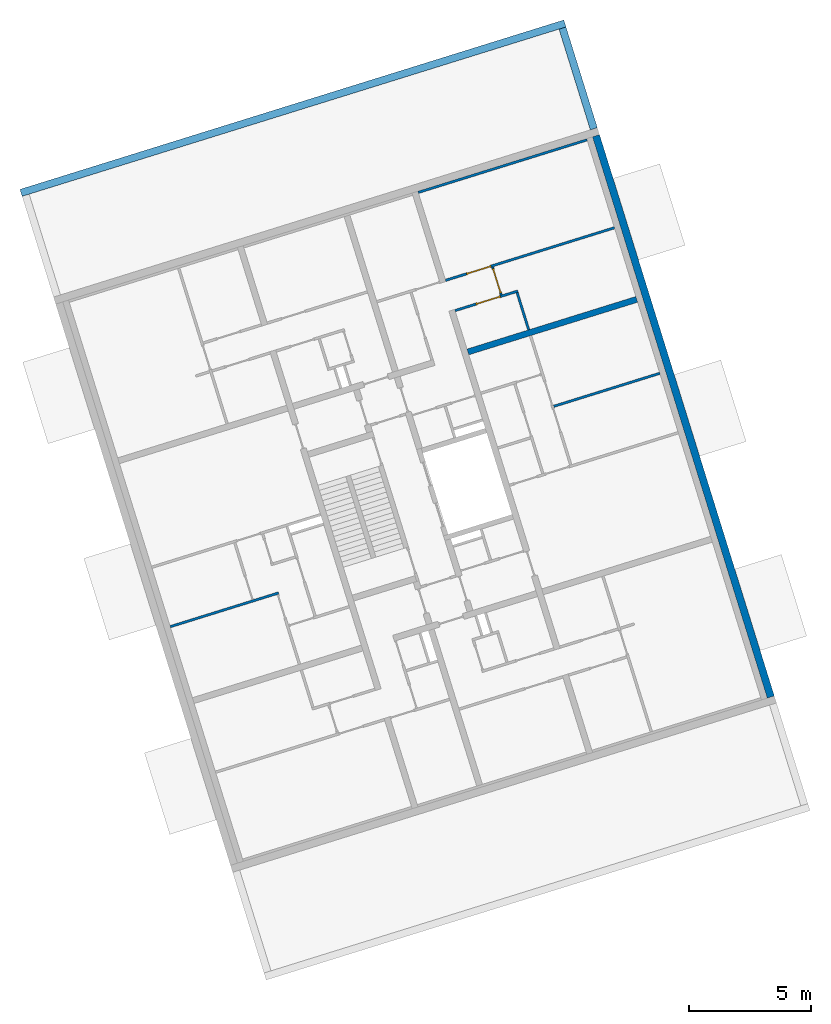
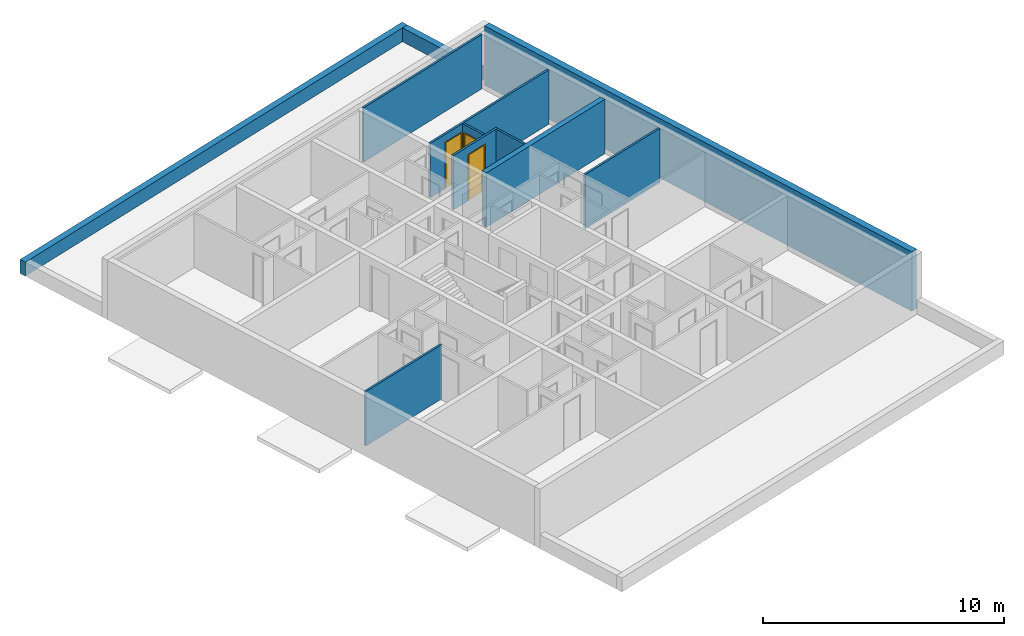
# One storey, part 7 of 9: 11 walls, 3 doors, 7 openings.
"""IFC4 building model written with IfcOpenShell, lengths in metres."""

from ifc_helpers import new_model, entity, si_unit, converted_unit, direction, frame, origin, place, context, subcontext, project, spatial, indexed_curve, outline, extrude, polygons, source, transform, mapped, material, constituent, constituent_set, type_object, type_shapes, element, fill, save


model = new_model("IFC4")

# Units and contexts
model_context = context("Model", 3, precision=1e-05, world=origin(), true_north=direction((6.12323399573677e-17, 1.0)))
body_context = subcontext(model_context, "Body", "Model", "MODEL_VIEW")
ifc_project = project(units=[si_unit("LENGTHUNIT", "METRE"), si_unit("AREAUNIT", "SQUARE_METRE"), converted_unit("PLANEANGLEUNIT", "DEGREE", entity("IfcPlaneAngleMeasure", 0.0174532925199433), si_unit("PLANEANGLEUNIT", "RADIAN"), dimensions=[0, 0, 0, 0, 0, 0, 0]), si_unit("VOLUMEUNIT", "CUBIC_METRE")], contexts=[model_context])

# Site, building, storey
site_placement = place(None, frame((13.1347999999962, 11.9886000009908, 0.0), z_axis=(0.0, 0.0, 1.0), x_axis=(0.954770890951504, 0.297342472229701, 0.0)))
site = spatial("IfcSite", under=ifc_project, at=site_placement, Name="Schiehaven", CompositionType="ELEMENT")
building_placement = place(site_placement, origin())
building = spatial("IfcBuilding", under=site, at=building_placement, Name="VORM huis", CompositionType="ELEMENT")
storey_placement = place(building_placement, frame((0.0, 0.0, 6.9)))
storey = spatial("IfcBuildingStorey", under=building, at=storey_placement, Name="02 tweede verdieping", CompositionType="ELEMENT", Elevation=6.9)

# Walls
ifc_material_1 = material(Name="ntb_ntb_ntb", Category="Miscellaneous")
wall_type_1 = type_object("IfcWallType", Name="Basic Wall:21_WA_gevel_binnenspouwwand 100mm_gen", PredefinedType="STANDARD")
wall_1_placement = place(storey_placement, frame((79.8750000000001, 29.0499999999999, 0.0), z_axis=(0.0, 0.0, 1.0), x_axis=(-1.0, 0.0, 0.0)))
element("IfcWall", 1, at=wall_1_placement, inside=storey, type_object=wall_type_1, material=ifc_material_1, Name="Binnenspouwblad", ObjectType="Wand", PredefinedType="NOTDEFINED", context=body_context, shape_type="SweptSolid", body=[
    extrude(outline(indexed_curve([(7.24999999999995, 0.0499999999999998), (-1.70916305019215e-17, 0.0500000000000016), (1.70916305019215e-17, -0.0500000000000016), (7.24999999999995, -0.0500000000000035), (7.24999999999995, 0.0499999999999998)], self_intersect=False)), origin(), (0.0, 0.0, 1.0), 2.75),
])
wall_type_2 = type_object("IfcWallType", Name="Basic Wall: 300mm_gen", PredefinedType="STANDARD")
wall_2_placement = place(storey_placement, frame((80.275, 5.0, 0.0), z_axis=(0.0, 0.0, 1.0), x_axis=(0.0, 1.0, 0.0)))
element("IfcWall", 2, at=wall_2_placement, inside=storey, type_object=wall_type_2, material=ifc_material_1, Name="Gevelwand", ObjectType="Wand", PredefinedType="NOTDEFINED", context=body_context, shape_type="SweptSolid", body=[
    extrude(outline(indexed_curve([(24.1, 0.150000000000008), (-3.80640300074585e-16, 0.150000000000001), (-7.02226829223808e-16, -0.150000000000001), (24.1, -0.149999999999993), (24.1, 0.150000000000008)], self_intersect=False)), origin(), (0.0, 0.0, 1.0), 3.0),
])
wall_3_placement = place(storey_placement, frame((57.0750000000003, 33.8750000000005, 0.0)))
element("IfcWall", 3, at=wall_3_placement, inside=storey, type_object=wall_type_2, material=ifc_material_1, Name="Gevelwand", ObjectType="Wand", PredefinedType="NOTDEFINED", context=body_context, shape_type="SweptSolid", body=[
    extrude(outline(indexed_curve([(23.3500000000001, 0.149999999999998), (2.10047350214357e-15, 0.150000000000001), (-2.10047350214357e-15, -0.150000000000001), (23.3500000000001, -0.150000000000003), (23.3500000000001, 0.149999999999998)], self_intersect=False)), origin(), (0.0, 0.0, 1.0), 0.700000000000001),
])
wall_4_placement = place(storey_placement, frame((80.2750000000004, 33.7250000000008, 0.0), z_axis=(0.0, 0.0, 1.0), x_axis=(0.0, -1.0, 0.0)))
element("IfcWall", 4, at=wall_4_placement, inside=storey, type_object=wall_type_2, material=ifc_material_1, Name="Gevelwand", ObjectType="Wand", PredefinedType="NOTDEFINED", context=body_context, shape_type="SweptSolid", body=[
    extrude(outline(indexed_curve([(4.32500000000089, 0.150000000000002), (-6.50257500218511e-16, 0.150000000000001), (6.50257500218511e-16, -0.150000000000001), (4.32500000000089, -0.149999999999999), (4.32500000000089, 0.150000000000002)], self_intersect=False)), origin(), (0.0, 0.0, 1.0), 0.700000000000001),
])
wall_type_3 = type_object("IfcWallType", Name="Basic Wall:22_WA_afbouw_binnenwand 250mm_gen", PredefinedType="STANDARD")
wall_5_placement = place(storey_placement, frame((72.6250000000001, 22.1999999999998, 0.0)))
element("IfcWall", 5, at=wall_5_placement, inside=storey, type_object=wall_type_3, material=ifc_material_1, Name="Binnenwand", ObjectType="Wand", PredefinedType="NOTDEFINED", context=body_context, shape_type="SweptSolid", body=[
    extrude(outline(indexed_curve([(7.24999999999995, 0.125000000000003), (4.81048401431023e-17, 0.125000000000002), (-4.81048401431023e-17, -0.125000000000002), (7.24999999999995, -0.125), (7.24999999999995, 0.125000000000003)], self_intersect=False)), origin(), (0.0, 0.0, 1.0), 2.75),
])

# Wall, openings
wall_type_4 = type_object("IfcWallType", Name="Basic Wall:22_WA_afbouw_binnenwand 100mm_gen", PredefinedType="STANDARD")
wall_6_placement = place(storey_placement, frame((62.275, 15.0749999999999, 0.0), z_axis=(0.0, 0.0, 1.0), x_axis=(-1.0, 0.0, 0.0)))
wall_6 = element("IfcWall", 6, at=wall_6_placement, inside=storey, type_object=wall_type_4, material=ifc_material_1, Name="Binnenwand", ObjectType="Wand", PredefinedType="NOTDEFINED", context=body_context, shape_type="Tessellation", body=[
    polygons([(-2.25176779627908e-15, -0.0499999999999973, 1.08286712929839e-15), (4.65000000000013, -0.0500000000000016, 1.08286712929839e-15), (4.65000000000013, -0.0500000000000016, 2.75), (1.15, -0.0500000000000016, 2.75), (1.04999999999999, -0.0500000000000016, 2.75), (-2.25176779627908e-15, -0.0499999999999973, 2.75), (-2.17960445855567e-15, 0.0499999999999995, 1.08286712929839e-15), (-2.17960445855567e-15, 0.0499999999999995, 2.34999999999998), (-2.17960445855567e-15, 0.0499999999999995, 2.75), (0.100000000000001, 0.0499999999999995, 2.75), (4.65000000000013, 0.0499999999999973, 2.75), (4.65000000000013, 0.0499999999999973, 1.08286712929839e-15)], [[[1, 2, 3, 4, 5, 6]], [[7, 8, 9, 10, 11, 12]], [[2, 1, 7, 12]], [[3, 2, 12, 11]], [[6, 5, 4, 3, 11, 10, 9]], [[1, 6, 9, 8, 7]]], closed=True),
])
opening_1_placement = place(wall_6_placement, origin())
element("IfcOpeningElement", 7, at=opening_1_placement, cuts=wall_6, Name="Binnendeur", PredefinedType="OPENING", context=body_context, shape_type="SweptSolid", body=[
    extrude(outline(indexed_curve([(-0.0499999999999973, -1.17499999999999), (0.050000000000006, -1.17499999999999), (0.050000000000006, 1.17499999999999), (-0.0499999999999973, 1.17499999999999), (-0.0499999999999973, -1.17499999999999)], self_intersect=False)), frame((0.0500000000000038, 0.0500000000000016, 1.17499999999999), z_axis=(0.0, 1.0, 0.0), x_axis=(-1.0, 0.0, 0.0)), (0.0, 0.0, 1.0), 1.05),
])
opening_2_placement = place(wall_6_placement, origin())
element("IfcOpeningElement", 8, at=opening_2_placement, cuts=wall_6, Name="Binnendeur", PredefinedType="OPENING", context=body_context, shape_type="SweptSolid", body=[
    extrude(outline(indexed_curve([(-0.050000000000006, -1.17499999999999), (0.0499999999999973, -1.17499999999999), (0.0499999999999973, 1.17499999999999), (-0.050000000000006, 1.17499999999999), (-0.050000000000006, -1.17499999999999)], self_intersect=False)), frame((1.09999999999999, -1.1, 1.17499999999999), z_axis=(0.0, 1.0, 0.0), x_axis=(-1.0, 0.0, 0.0)), (0.0, 0.0, 1.0), 1.05),
])

# Wall, opening, door
wall_7_placement = place(storey_placement, frame((75.3249999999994, 23.9750000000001, 0.0), z_axis=(0.0, 0.0, 1.0), x_axis=(-1.0, 0.0, 0.0)))
wall_7 = element("IfcWall", 9, at=wall_7_placement, inside=storey, type_object=wall_type_4, material=ifc_material_1, Name="Binnenwand", ObjectType="Wand", PredefinedType="NOTDEFINED", context=body_context, shape_type="Tessellation", body=[
    polygons([(3.61017714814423e-15, -0.0499999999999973, 1.08286712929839e-15), (0.650000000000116, -0.0499999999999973, 0.0), (0.750000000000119, -0.0499999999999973, 1.08286712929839e-15), (0.750000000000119, -0.0499999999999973, 2.34999999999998), (1.80000000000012, -0.0500000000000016, 2.34999999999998), (1.80000000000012, -0.0500000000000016, 1.08286712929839e-15), (2.69999999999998, -0.0500000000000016, 1.08286712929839e-15), (2.69999999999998, -0.0500000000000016, 2.75), (0.750000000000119, -0.0499999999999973, 2.75), (0.650000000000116, -0.0499999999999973, 2.75), (3.61017714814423e-15, -0.0499999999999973, 2.75), (0.750000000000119, 0.0500000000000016, 2.34999999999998), (0.750000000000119, 0.0500000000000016, 1.08286712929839e-15), (0.100000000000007, 0.0500000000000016, 0.0), (3.48697636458e-15, 0.0500000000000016, 1.08286712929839e-15), (3.48697636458e-15, 0.0500000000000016, 2.75), (0.100000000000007, 0.0500000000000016, 2.75), (2.69999999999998, 0.0499999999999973, 2.75), (2.69999999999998, 0.0499999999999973, 1.08286712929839e-15), (1.80000000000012, 0.0499999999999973, 1.08286712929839e-15), (1.80000000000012, 0.0499999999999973, 2.34999999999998)], [[[1, 2, 3, 4, 5, 6, 7, 8, 9, 10, 11]], [[12, 13, 14, 15, 16, 17, 18, 19, 20, 21]], [[15, 14, 13, 3, 2, 1]], [[8, 7, 19, 18]], [[11, 10, 9, 8, 18, 17, 16]], [[6, 5, 21, 20]], [[4, 3, 13, 12]], [[5, 4, 12, 21]], [[1, 11, 16, 15]], [[20, 19, 7, 6]]], closed=True),
])
opening_3_placement = place(wall_7_placement, frame((1.80000000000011, 0.0499999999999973, 0.0)))
opening_3 = element("IfcOpeningElement", 10, at=opening_3_placement, cuts=wall_7, Name="Binnendeur", PredefinedType="OPENING", context=body_context, shape_type="SweptSolid", body=[
    extrude(outline(indexed_curve([(2.34999999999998, 0.0), (2.34999999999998, 1.05), (0.0, 1.05), (0.0, 0.0), (2.34999999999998, 0.0)], self_intersect=False)), frame((0.0, 0.0, 0.0), z_axis=(0.0, -1.0, 0.0), x_axis=(0.0, 0.0, 1.0)), (0.0, 0.0, 1.0), 0.1),
])
ifc_material_2 = material(Name="PD_a_binnenwandopeningen", Category="Miscellaneous")
ifc_constituent_1 = constituent(ifc_material_2, Name="PD_a_binnenwandopeningen", Category="Miscellaneous")
ifc_material_3 = material(Name="metaal_aluminium_ntb", Category="Miscellaneous")
ifc_constituent_2 = constituent(ifc_material_3, Name="metaal_aluminium_ntb", Category="Miscellaneous")
ifc_constituent_set_1 = constituent_set(constituents=[ifc_constituent_1, ifc_constituent_2])
ifc_constituent_3 = constituent(ifc_material_2, Name="PD_a_binnenwandopeningen", Category="Miscellaneous")
ifc_constituent_4 = constituent(ifc_material_3, Name="Panel", Category="Miscellaneous")
ifc_constituent_set_2 = constituent_set(constituents=[ifc_constituent_3, ifc_constituent_4])
door_type_1 = type_object("IfcDoorType", Name="32_DO_binnendeur enkel:binnendeur", OperationType="REVOLVING", PredefinedType="DOOR", material=ifc_constituent_set_2)
shared_shape_1 = source(origin(), body_context, "Body", "SweptSolid", [
    extrude(outline(indexed_curve([(0.475, -1.16249999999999), (0.525, -1.16249999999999), (0.525, 1.18749999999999), (-0.525, 1.18749999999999), (-0.525, -1.16249999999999), (-0.475, -1.16249999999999), (-0.475, 1.13749999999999), (0.475, 1.13749999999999), (0.475, -1.16249999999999)], self_intersect=False)), frame((0.525000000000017, 0.100000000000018, 1.16249999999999), z_axis=(0.0, -1.0, 0.0), x_axis=(1.0, 0.0, 0.0)), (0.0, 0.0, 1.0), 0.1),
    extrude(outline(indexed_curve([(-0.475, -0.025), (0.475, -0.025), (0.475, 0.025), (-0.475, 0.025), (-0.475, -0.025)], self_intersect=False)), frame((0.525000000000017, 0.0499999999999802, 0.0)), (0.0, 0.0, 1.0), 2.29999999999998),
])
type_shapes(door_type_1, [shared_shape_1])
door_1_placement = place(opening_3_placement, frame((0.0, 0.0, 0.0), z_axis=(0.0, 0.0, 1.0), x_axis=(-1.0, 0.0, 0.0)))
door_1 = element("IfcDoor", 11, at=door_1_placement, inside=storey, type_object=door_type_1, material=ifc_constituent_set_1, Name="Binnendeur", ObjectType="Deur", OperationType="REVOLVING", OverallHeight=2.34999999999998, OverallWidth=1.05, PredefinedType="DOOR", context=body_context, shape_type="MappedRepresentation", body=[
    mapped(shared_shape_1, transform((0.0, 0.0, 0.0), scale=1.0)),
])
fill(opening_3, door_1)

wall_8_placement = place(storey_placement, frame((79.8749999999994, 25.2750000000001, 0.0), z_axis=(0.0, 0.0, 1.0), x_axis=(-1.0, 0.0, 0.0)))
wall_8 = element("IfcWall", 12, at=wall_8_placement, inside=storey, type_object=wall_type_4, material=ifc_material_1, Name="Binnenwand", ObjectType="Wand", PredefinedType="NOTDEFINED", context=body_context, shape_type="Tessellation", body=[
    polygons([(6.35000000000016, -0.0499999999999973, 2.34999999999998), (6.35000000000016, -0.0499999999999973, 1.08286712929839e-15), (7.25000000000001, -0.0499999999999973, 1.08286712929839e-15), (7.25000000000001, -0.0499999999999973, 2.75), (-3.45114969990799e-15, -0.0499999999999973, 2.75), (-3.45114969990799e-15, -0.0499999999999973, 1.08286712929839e-15), (5.30000000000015, -0.049999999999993, 1.08286712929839e-15), (5.30000000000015, -0.049999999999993, 2.34999999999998), (7.25000000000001, 0.0500000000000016, 1.08286712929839e-15), (6.35000000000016, 0.0500000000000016, 1.08286712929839e-15), (6.35000000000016, 0.0500000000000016, 2.34999999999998), (5.30000000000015, 0.050000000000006, 2.34999999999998), (5.30000000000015, 0.050000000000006, 1.08286712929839e-15), (5.20000000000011, 0.050000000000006, 0.0), (-3.57435048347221e-15, 0.0500000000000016, 1.08286712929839e-15), (-3.57435048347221e-15, 0.0500000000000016, 2.75), (5.20000000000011, 0.050000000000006, 2.75), (5.30000000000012, 0.050000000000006, 2.75), (7.25000000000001, 0.0500000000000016, 2.75)], [[[1, 2, 3, 4, 5, 6, 7, 8]], [[9, 10, 11, 12, 13, 14, 15, 16, 17, 18, 19]], [[7, 6, 15, 14, 13]], [[4, 3, 9, 19]], [[5, 4, 19, 18, 17, 16]], [[6, 5, 16, 15]], [[13, 12, 8, 7]], [[11, 10, 2, 1]], [[12, 11, 1, 8]], [[3, 2, 10, 9]]], closed=True),
])
opening_4_placement = place(wall_8_placement, frame((5.30000000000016, -0.0500000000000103, 0.0)))
opening_4 = element("IfcOpeningElement", 13, at=opening_4_placement, cuts=wall_8, Name="Binnendeur", PredefinedType="OPENING", context=body_context, shape_type="SweptSolid", body=[
    extrude(outline(indexed_curve([(2.34999999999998, 0.0), (2.34999999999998, 1.05), (0.0, 1.05), (0.0, 0.0), (2.34999999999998, 0.0)], self_intersect=False)), frame((0.0, 0.0, 0.0), z_axis=(0.0, 1.0, 0.0), x_axis=(0.0, 0.0, 1.0)), (0.0, 0.0, 1.0), 0.1),
])
ifc_constituent_5 = constituent(ifc_material_2, Name="PD_a_binnenwandopeningen", Category="Miscellaneous")
ifc_constituent_6 = constituent(ifc_material_3, Name="metaal_aluminium_ntb", Category="Miscellaneous")
ifc_constituent_set_3 = constituent_set(constituents=[ifc_constituent_5, ifc_constituent_6])
door_2_placement = place(opening_4_placement, origin())
door_2 = element("IfcDoor", 14, at=door_2_placement, inside=storey, type_object=door_type_1, material=ifc_constituent_set_3, Name="Binnendeur", ObjectType="Deur", OperationType="REVOLVING", OverallHeight=2.34999999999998, OverallWidth=1.05, PredefinedType="DOOR", context=body_context, shape_type="MappedRepresentation", body=[
    mapped(shared_shape_1, transform((0.0, 0.0, 0.0), scale=1.0)),
])
fill(opening_4, door_2)

# Wall
wall_9_placement = place(storey_placement, frame((75.2749999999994, 23.9250000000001, 0.0), z_axis=(0.0, 0.0, 1.0), x_axis=(0.0, -1.0, 0.0)))
element("IfcWall", 15, at=wall_9_placement, inside=storey, type_object=wall_type_4, material=ifc_material_1, Name="Binnenwand", ObjectType="Wand", PredefinedType="NOTDEFINED", context=body_context, shape_type="SweptSolid", body=[
    extrude(outline(indexed_curve([(1.6000000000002, 0.0499999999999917), (-9.45814329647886e-17, 0.0499999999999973), (9.45814329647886e-17, -0.0499999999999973), (1.6000000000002, -0.0500000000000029), (1.6000000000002, 0.0499999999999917)], self_intersect=False)), origin(), (0.0, 0.0, 1.0), 2.75),
])

# Wall, openings, door
wall_10_placement = place(storey_placement, frame((74.6249999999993, 24.0250000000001, 0.0), z_axis=(0.0, 0.0, 1.0), x_axis=(0.0, 1.0, 0.0)))
wall_10 = element("IfcWall", 16, at=wall_10_placement, inside=storey, type_object=wall_type_4, material=ifc_material_1, Name="Binnenwand", ObjectType="Wand", PredefinedType="NOTDEFINED", context=body_context, shape_type="Tessellation", body=[
    polygons([(1.2, -0.0500000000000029, 2.75), (4.33146851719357e-15, -0.0500000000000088, 2.75), (4.33146851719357e-15, -0.0500000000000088, 1.08286712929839e-15), (0.0799999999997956, -0.0500000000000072, 1.08286712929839e-15), (0.0799999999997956, -0.0500000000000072, 2.34999999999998), (1.1299999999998, -0.0500000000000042, 2.34999999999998), (1.1299999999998, -0.0500000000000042, 1.08286712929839e-15), (1.2, -0.0500000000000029, 1.08286712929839e-15), (0.0, 0.0499999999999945, 2.75), (1.19999999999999, 0.0499999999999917, 2.75), (1.19999999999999, 0.0500000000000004, 2.34999999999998), (1.19999999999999, 0.0499999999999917, 1.08286712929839e-15), (1.1299999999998, 0.0499999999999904, 1.08286712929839e-15), (1.1299999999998, 0.0500000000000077, 2.34999999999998), (0.0799999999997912, 0.049999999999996, 2.34999999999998), (0.0799999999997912, 0.049999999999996, 1.08286712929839e-15), (0.0, 0.0499999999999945, 1.08286712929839e-15), (0.0, 0.0499999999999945, 2.34999999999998)], [[[1, 2, 3, 4, 5, 6, 7, 8]], [[9, 10, 11, 12, 13, 14, 15, 16, 17, 18]], [[3, 17, 16, 4]], [[2, 1, 10, 9]], [[1, 8, 12, 11, 10]], [[3, 2, 9, 18, 17]], [[6, 14, 13, 7]], [[14, 6, 5, 15]], [[15, 5, 4, 16]], [[12, 8, 7, 13]]], closed=True),
])
opening_5_placement = place(wall_10_placement, frame((0.0799999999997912, -0.050000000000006, 0.0)))
opening_5 = element("IfcOpeningElement", 17, at=opening_5_placement, cuts=wall_10, Name="Binnendeur", PredefinedType="OPENING", context=body_context, shape_type="SweptSolid", body=[
    extrude(outline(indexed_curve([(2.34999999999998, 1.05), (0.0, 1.05), (0.0, 0.0), (2.34999999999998, 0.0), (2.34999999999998, 1.05)], self_intersect=False)), frame((0.0, 0.0, 0.0), z_axis=(0.0, 1.0, 0.0), x_axis=(0.0, 0.0, 1.0)), (0.0, 0.0, 1.0), 0.1),
])
opening_6_placement = place(wall_10_placement, frame((-24.0250000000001, 74.6249999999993, 0.0), z_axis=(0.0, 0.0, 1.0), x_axis=(0.0, -1.0, 0.0)))
element("IfcOpeningElement", 18, at=opening_6_placement, cuts=wall_10, Name="Binnendeur", PredefinedType="OPENING", context=body_context, shape_type="SweptSolid", body=[
    extrude(outline(indexed_curve([(-1.17499999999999, -0.524999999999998), (1.17499999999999, -0.525000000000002), (1.17499999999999, 0.525000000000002), (-1.17499999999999, 0.525000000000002), (-1.17499999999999, -0.524999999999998)], self_intersect=False)), frame((76.1989999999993, 24.6299999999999, 1.17499999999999), z_axis=(-1.0, 0.0, 0.0), x_axis=(0.0, 0.0, -1.0)), (0.0, 0.0, 1.0), 3.048),
])
ifc_constituent_7 = constituent(ifc_material_2, Name="PD_a_binnenwandopeningen", Category="Miscellaneous")
ifc_constituent_8 = constituent(ifc_material_3, Name="metaal_aluminium_ntb", Category="Miscellaneous")
ifc_constituent_set_4 = constituent_set(constituents=[ifc_constituent_7, ifc_constituent_8])
ifc_constituent_9 = constituent(ifc_material_2, Name="PD_a_binnenwandopeningen", Category="Miscellaneous")
ifc_constituent_10 = constituent(ifc_material_3, Name="Panel", Category="Miscellaneous")
ifc_constituent_set_5 = constituent_set(constituents=[ifc_constituent_9, ifc_constituent_10])
door_type_2 = type_object("IfcDoorType", Name="32_DO_binnendeur enkel:binnendeur", OperationType="REVOLVING", PredefinedType="DOOR", material=ifc_constituent_set_5)
shared_shape_2 = source(origin(), body_context, "Body", "SweptSolid", [
    extrude(outline(indexed_curve([(-1.16249999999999, -0.525000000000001), (1.18749999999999, -0.525), (1.18749999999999, 0.525), (-1.16249999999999, 0.525), (-1.16249999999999, 0.475), (1.13749999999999, 0.475), (1.13749999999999, -0.475), (-1.16249999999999, -0.475), (-1.16249999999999, -0.525000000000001)], self_intersect=False)), frame((0.525000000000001, 0.0, 1.16249999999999), z_axis=(0.0, 1.0, 0.0), x_axis=(0.0, 0.0, 1.0)), (0.0, 0.0, 1.0), 0.1),
    extrude(outline(indexed_curve([(-0.025, -0.475), (0.025, -0.475), (0.025, 0.475), (-0.025, 0.475), (-0.025, -0.475)], self_intersect=False)), frame((0.525000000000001, 0.0499999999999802, 0.0), z_axis=(0.0, 0.0, 1.0), x_axis=(0.0, 1.0, 0.0)), (0.0, 0.0, 1.0), 2.29999999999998),
])
type_shapes(door_type_2, [shared_shape_2])
door_3_placement = place(opening_5_placement, origin())
door_3 = element("IfcDoor", 19, at=door_3_placement, inside=storey, type_object=door_type_2, material=ifc_constituent_set_4, Name="Binnendeur", ObjectType="Deur", OperationType="REVOLVING", OverallHeight=2.34999999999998, OverallWidth=1.05, PredefinedType="DOOR", context=body_context, shape_type="MappedRepresentation", body=[
    mapped(shared_shape_2, transform((0.0, 0.0, 0.0), scale=1.0)),
])
fill(opening_5, door_3)

# Wall, opening
wall_11_placement = place(storey_placement, frame((75.3249999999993, 19.0249999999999, 0.0)))
wall_11 = element("IfcWall", 20, at=wall_11_placement, inside=storey, type_object=wall_type_4, material=ifc_material_1, Name="Binnenwand", ObjectType="Wand", PredefinedType="NOTDEFINED", context=body_context, shape_type="Tessellation", body=[
    polygons([(6.24269688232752e-15, -0.0500000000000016, 1.08286712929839e-15), (4.55000000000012, -0.0500000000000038, 1.08286712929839e-15), (4.55000000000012, -0.0500000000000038, 2.75), (6.24269688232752e-15, -0.0500000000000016, 2.75), (-2.42024015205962e-15, -0.0500000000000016, 2.34999999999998), (6.59517781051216e-15, 0.0499999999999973, 1.08286712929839e-15), (-2.06775922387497e-15, 0.0499999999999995, 2.34999999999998), (6.59517781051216e-15, 0.0499999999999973, 2.75), (4.55000000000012, 0.0499999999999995, 2.75), (4.55000000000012, 0.0499999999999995, 1.08286712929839e-15)], [[[1, 2, 3, 4, 5]], [[6, 7, 8, 9, 10]], [[2, 1, 6, 10]], [[3, 2, 10, 9]], [[4, 3, 9, 8]], [[1, 5, 4, 8, 7, 6]]], closed=True),
])
opening_7_placement = place(wall_11_placement, origin())
element("IfcOpeningElement", 21, at=opening_7_placement, cuts=wall_11, Name="Binnendeur", PredefinedType="OPENING", context=body_context, shape_type="SweptSolid", body=[
    extrude(outline(indexed_curve([(-0.050000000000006, -1.17499999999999), (0.0499999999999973, -1.17499999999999), (0.0499999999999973, 1.17499999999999), (-0.050000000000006, 1.17499999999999), (-0.050000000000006, -1.17499999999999)], self_intersect=False)), frame((-0.050000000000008, 0.0500000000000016, 1.17499999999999), z_axis=(0.0, 1.0, 0.0), x_axis=(-1.0, 0.0, 0.0)), (0.0, 0.0, 1.0), 1.05),
])

save(model, "model.ifc")
